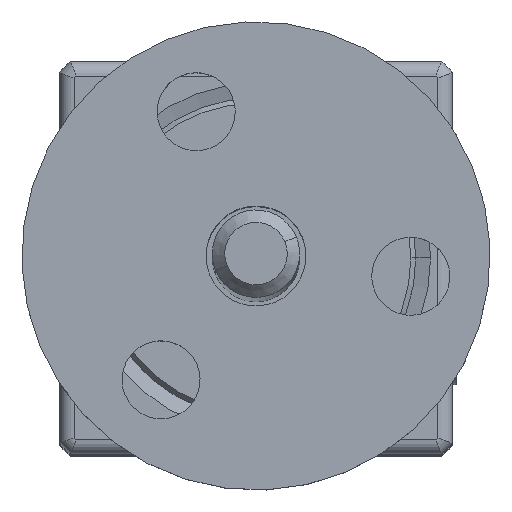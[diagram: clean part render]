
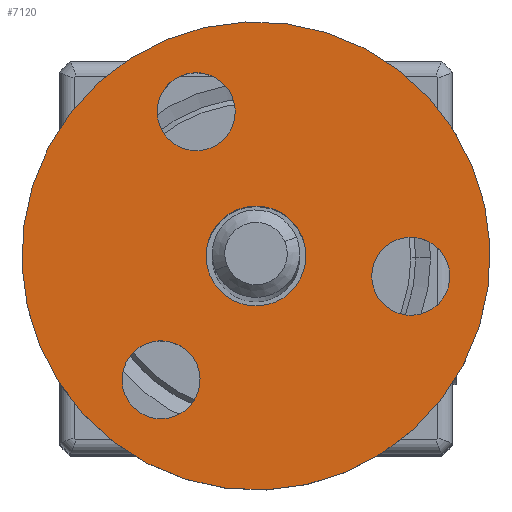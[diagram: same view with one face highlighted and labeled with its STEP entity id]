
A CAD part, top view. The second image highlights one B-rep face of the part: STEP entity #7120.
In plain terms, the highlighted planar face has unit normal (0, 0, 1).
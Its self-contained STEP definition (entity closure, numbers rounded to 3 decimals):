
#31 = AXIS2_PLACEMENT_3D ( 'NONE', #1895, #5581, #8284 ) ;
#140 = CARTESIAN_POINT ( 'NONE',  ( 16.543, 9.52, 91.797 ) ) ;
#225 = ORIENTED_EDGE ( 'NONE', *, *, #7866, .F. ) ;
#304 = ORIENTED_EDGE ( 'NONE', *, *, #5602, .F. ) ;
#557 = CARTESIAN_POINT ( 'NONE',  ( 10.247, 10.347, 91.797 ) ) ;
#567 = AXIS2_PLACEMENT_3D ( 'NONE', #140, #10371, #1783 ) ;
#838 = EDGE_CURVE ( 'NONE', #2710, #5281, #1785, .T. ) ;
#1054 = CARTESIAN_POINT ( 'NONE',  ( 6.384, 5.307, 91.797 ) ) ;
#1157 = EDGE_CURVE ( 'NONE', #1345, #5667, #11397, .T. ) ;
#1345 = VERTEX_POINT ( 'NONE', #8877 ) ;
#1381 = CARTESIAN_POINT ( 'NONE',  ( 7.85, 5.915, 91.797 ) ) ;
#1429 = DIRECTION ( 'NONE',  ( 0., 0., 1. ) ) ;
#1492 = VERTEX_POINT ( 'NONE', #7332 ) ;
#1651 = CARTESIAN_POINT ( 'NONE',  ( 10.247, 10.347, 91.797 ) ) ;
#1783 = DIRECTION ( 'NONE',  ( -0.13, -0.991, 0. ) ) ;
#1785 = CIRCLE ( 'NONE', #31, 9.525 ) ;
#1853 = EDGE_LOOP ( 'NONE', ( #2292, #5615 ) ) ;
#1895 = CARTESIAN_POINT ( 'NONE',  ( 10.247, 10.347, 91.797 ) ) ;
#1902 = FACE_BOUND ( 'NONE', #1853, .T. ) ;
#1956 = EDGE_CURVE ( 'NONE', #4060, #1492, #6424, .T. ) ;
#1972 = CARTESIAN_POINT ( 'NONE',  ( 10.247, 10.347, 91.797 ) ) ;
#2038 = AXIS2_PLACEMENT_3D ( 'NONE', #12038, #10025, #3640 ) ;
#2044 = CIRCLE ( 'NONE', #8899, 1.588 ) ;
#2048 = CARTESIAN_POINT ( 'NONE',  ( 10.247, 10.347, 91.797 ) ) ;
#2070 = DIRECTION ( 'NONE',  ( -0.794, 0.608, 0. ) ) ;
#2292 = ORIENTED_EDGE ( 'NONE', *, *, #6836, .F. ) ;
#2374 = AXIS2_PLACEMENT_3D ( 'NONE', #557, #10616, #3245 ) ;
#2710 = VERTEX_POINT ( 'NONE', #7764 ) ;
#2863 = DIRECTION ( 'NONE',  ( 0.924, 0.383, 0. ) ) ;
#2923 = DIRECTION ( 'NONE',  ( 0., 0., 1. ) ) ;
#2931 = CARTESIAN_POINT ( 'NONE',  ( 4.917, 4.699, 91.797 ) ) ;
#2941 = CIRCLE ( 'NONE', #4123, 1.588 ) ;
#3245 = DIRECTION ( 'NONE',  ( -0.924, -0.383, 0. ) ) ;
#3357 = CIRCLE ( 'NONE', #3753, 1.588 ) ;
#3526 = EDGE_LOOP ( 'NONE', ( #10682, #4072 ) ) ;
#3640 = DIRECTION ( 'NONE',  ( 0.924, 0.383, 0. ) ) ;
#3688 = DIRECTION ( 'NONE',  ( -0.924, -0.383, 0. ) ) ;
#3753 = AXIS2_PLACEMENT_3D ( 'NONE', #1054, #6864, #6803 ) ;
#3810 = FACE_BOUND ( 'NONE', #6259, .T. ) ;
#3935 = DIRECTION ( 'NONE',  ( 0., 0., -1. ) ) ;
#4050 = ORIENTED_EDGE ( 'NONE', *, *, #8619, .F. ) ;
#4060 = VERTEX_POINT ( 'NONE', #10087 ) ;
#4072 = ORIENTED_EDGE ( 'NONE', *, *, #6812, .F. ) ;
#4123 = AXIS2_PLACEMENT_3D ( 'NONE', #5622, #8699, #2070 ) ;
#4193 = CIRCLE ( 'NONE', #2038, 1.588 ) ;
#4296 = CARTESIAN_POINT ( 'NONE',  ( 9.281, 16.82, 91.797 ) ) ;
#5281 = VERTEX_POINT ( 'NONE', #10955 ) ;
#5387 = DIRECTION ( 'NONE',  ( 0., 0., 1. ) ) ;
#5440 = VERTEX_POINT ( 'NONE', #1381 ) ;
#5478 = CARTESIAN_POINT ( 'NONE',  ( 8.37, 9.568, 91.797 ) ) ;
#5573 = CIRCLE ( 'NONE', #11451, 2.032 ) ;
#5581 = DIRECTION ( 'NONE',  ( 0., 0., -1. ) ) ;
#5589 = FACE_BOUND ( 'NONE', #11515, .T. ) ;
#5602 = EDGE_CURVE ( 'NONE', #8058, #9674, #4193, .T. ) ;
#5615 = ORIENTED_EDGE ( 'NONE', *, *, #1956, .F. ) ;
#5622 = CARTESIAN_POINT ( 'NONE',  ( 6.384, 5.307, 91.797 ) ) ;
#5667 = VERTEX_POINT ( 'NONE', #5478 ) ;
#5761 = AXIS2_PLACEMENT_3D ( 'NONE', #1972, #3935, #3688 ) ;
#5874 = CARTESIAN_POINT ( 'NONE',  ( 6.349, 15.604, 91.797 ) ) ;
#6259 = EDGE_LOOP ( 'NONE', ( #225, #304 ) ) ;
#6424 = CIRCLE ( 'NONE', #567, 1.588 ) ;
#6580 = DIRECTION ( 'NONE',  ( 0.924, 0.383, 0. ) ) ;
#6756 = PLANE ( 'NONE',  #5761 ) ;
#6803 = DIRECTION ( 'NONE',  ( -0.794, 0.608, 0. ) ) ;
#6812 = EDGE_CURVE ( 'NONE', #5667, #1345, #5573, .T. ) ;
#6836 = EDGE_CURVE ( 'NONE', #1492, #4060, #2044, .T. ) ;
#6864 = DIRECTION ( 'NONE',  ( 0., 0., 1. ) ) ;
#6881 = AXIS2_PLACEMENT_3D ( 'NONE', #9436, #2923, #2863 ) ;
#7120 = ADVANCED_FACE ( 'NONE', ( #7680, #1902, #5589, #3810, #11355 ), #6756, .F. ) ;
#7332 = CARTESIAN_POINT ( 'NONE',  ( 18.01, 10.128, 91.797 ) ) ;
#7680 = FACE_BOUND ( 'NONE', #3526, .T. ) ;
#7764 = CARTESIAN_POINT ( 'NONE',  ( 19.046, 13.995, 91.797 ) ) ;
#7866 = EDGE_CURVE ( 'NONE', #9674, #8058, #9435, .T. ) ;
#8058 = VERTEX_POINT ( 'NONE', #5874 ) ;
#8090 = DIRECTION ( 'NONE',  ( 0.924, 0.383, 0. ) ) ;
#8284 = DIRECTION ( 'NONE',  ( -0.924, -0.383, 0. ) ) ;
#8487 = EDGE_LOOP ( 'NONE', ( #10696, #9958 ) ) ;
#8619 = EDGE_CURVE ( 'NONE', #5440, #9877, #3357, .T. ) ;
#8699 = DIRECTION ( 'NONE',  ( 0., 0., 1. ) ) ;
#8723 = EDGE_CURVE ( 'NONE', #5281, #2710, #9014, .T. ) ;
#8877 = CARTESIAN_POINT ( 'NONE',  ( 12.124, 11.125, 91.797 ) ) ;
#8899 = AXIS2_PLACEMENT_3D ( 'NONE', #8908, #1429, #11614 ) ;
#8908 = CARTESIAN_POINT ( 'NONE',  ( 16.543, 9.52, 91.797 ) ) ;
#8990 = EDGE_CURVE ( 'NONE', #9877, #5440, #2941, .T. ) ;
#9014 = CIRCLE ( 'NONE', #2374, 9.525 ) ;
#9435 = CIRCLE ( 'NONE', #6881, 1.588 ) ;
#9436 = CARTESIAN_POINT ( 'NONE',  ( 7.815, 16.212, 91.797 ) ) ;
#9674 = VERTEX_POINT ( 'NONE', #4296 ) ;
#9877 = VERTEX_POINT ( 'NONE', #2931 ) ;
#9958 = ORIENTED_EDGE ( 'NONE', *, *, #8723, .F. ) ;
#10025 = DIRECTION ( 'NONE',  ( 0., 0., 1. ) ) ;
#10087 = CARTESIAN_POINT ( 'NONE',  ( 15.077, 8.912, 91.797 ) ) ;
#10371 = DIRECTION ( 'NONE',  ( 0., 0., 1. ) ) ;
#10616 = DIRECTION ( 'NONE',  ( 0., 0., -1. ) ) ;
#10682 = ORIENTED_EDGE ( 'NONE', *, *, #1157, .F. ) ;
#10696 = ORIENTED_EDGE ( 'NONE', *, *, #838, .F. ) ;
#10800 = AXIS2_PLACEMENT_3D ( 'NONE', #1651, #5387, #8090 ) ;
#10955 = CARTESIAN_POINT ( 'NONE',  ( 1.449, 6.698, 91.797 ) ) ;
#11355 = FACE_OUTER_BOUND ( 'NONE', #8487, .T. ) ;
#11397 = CIRCLE ( 'NONE', #10800, 2.032 ) ;
#11451 = AXIS2_PLACEMENT_3D ( 'NONE', #2048, #11492, #6580 ) ;
#11492 = DIRECTION ( 'NONE',  ( 0., 0., 1. ) ) ;
#11515 = EDGE_LOOP ( 'NONE', ( #4050, #11661 ) ) ;
#11614 = DIRECTION ( 'NONE',  ( -0.13, -0.991, 0. ) ) ;
#11661 = ORIENTED_EDGE ( 'NONE', *, *, #8990, .F. ) ;
#12038 = CARTESIAN_POINT ( 'NONE',  ( 7.815, 16.212, 91.797 ) ) ;
